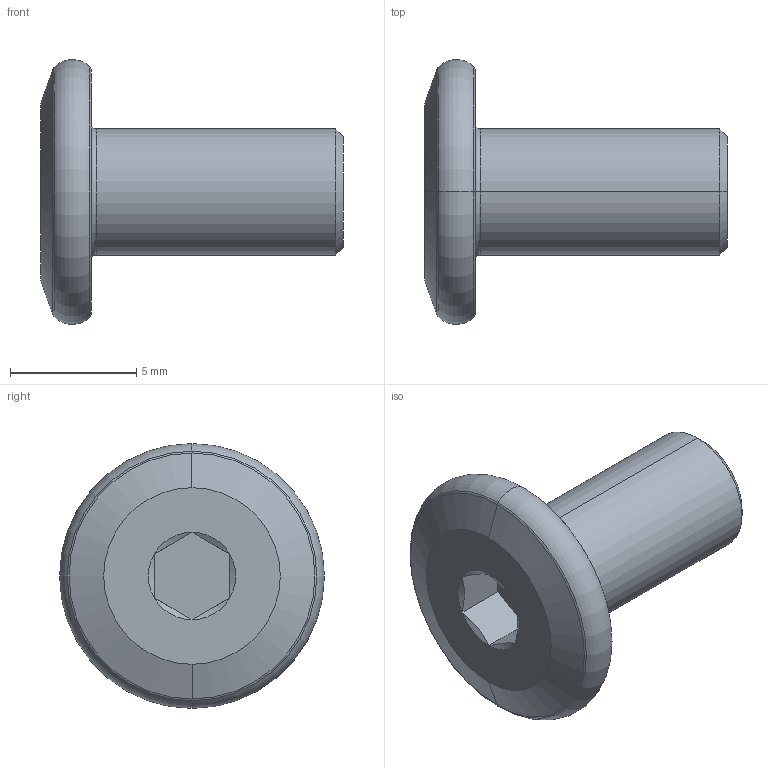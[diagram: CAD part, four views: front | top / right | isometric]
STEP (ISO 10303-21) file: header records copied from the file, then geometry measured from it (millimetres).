
FILE_DESCRIPTION (( 'STEP AP203' ), '1' );
FILE_NAME ('LGD-304D-M5x10.STEP', '2026-08-13T07:19:14', ( '' ), ( '' ), 'SwSTEP 2.0', 'SolidWorks 2020', '' );
FILE_SCHEMA (( 'CONFIG_CONTROL_DESIGN' ));
Length unit declared in the file: millimetre
Products named in the file (1): LGD-304D-M5x10
Bounding box: 12 x 10.5 x 10.5 mm (x, y, z)
Volume: 333 mm3; surface area: 381.3 mm2
Topology: 1 solids, 1 shells, 30 faces, 56 edges, 30 vertices
Faces by surface type: cone 10, plane 10, torus 8, cylinder 2
Entity records: 835 total; most frequent: CARTESIAN_POINT 151, DIRECTION 144, ORIENTED_EDGE 112, AXIS2_PLACEMENT_3D 63, EDGE_CURVE 56, EDGE_LOOP 32, CIRCLE 32, FACE_OUTER_BOUND 30
